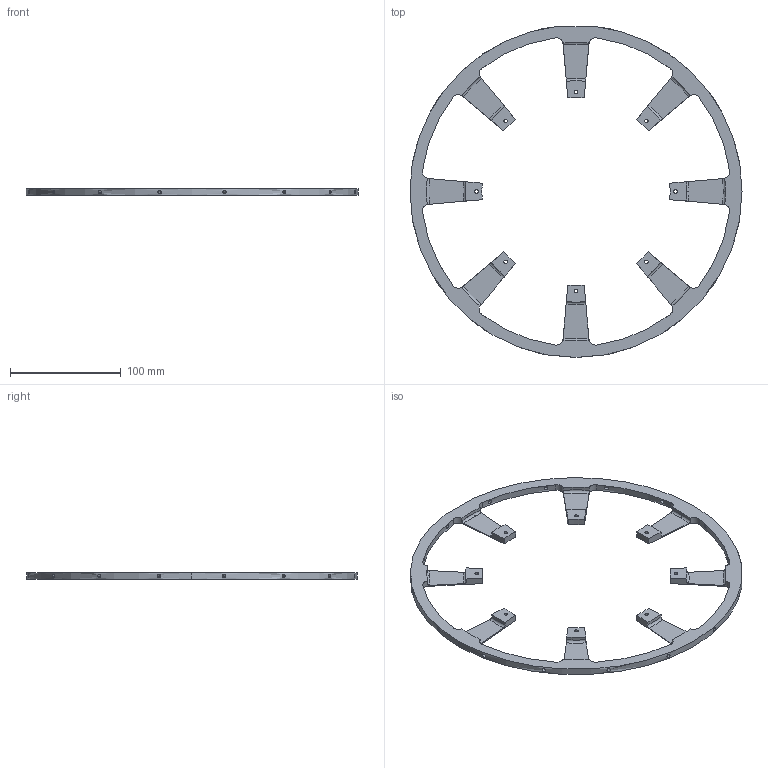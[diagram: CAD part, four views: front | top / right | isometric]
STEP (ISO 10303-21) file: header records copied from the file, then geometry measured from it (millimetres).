
FILE_DESCRIPTION (( 'STEP AP203' ), '1' );
FILE_NAME ('instrument_to_shelter_119.STEP', '2024-07-01T09:08:33', ( '' ), ( '' ), 'SwSTEP 2.0', 'SolidWorks 2021', '' );
FILE_SCHEMA (( 'CONFIG_CONTROL_DESIGN' ));
Length unit declared in the file: millimetre
Products named in the file (1): instrument_to_shelter_119
Bounding box: 300 x 299 x 6 mm (x, y, z)
Volume: 76967.4 mm3; surface area: 51541.3 mm2
Topology: 1 solids, 1 shells, 159 faces, 469 edges, 312 vertices
Faces by surface type: cylinder 106, plane 35, torus 18
Entity records: 7212 total; most frequent: CARTESIAN_POINT 2749, ORIENTED_EDGE 938, DIRECTION 909, EDGE_CURVE 469, AXIS2_PLACEMENT_3D 360, VERTEX_POINT 312, EDGE_LOOP 209, CIRCLE 200
